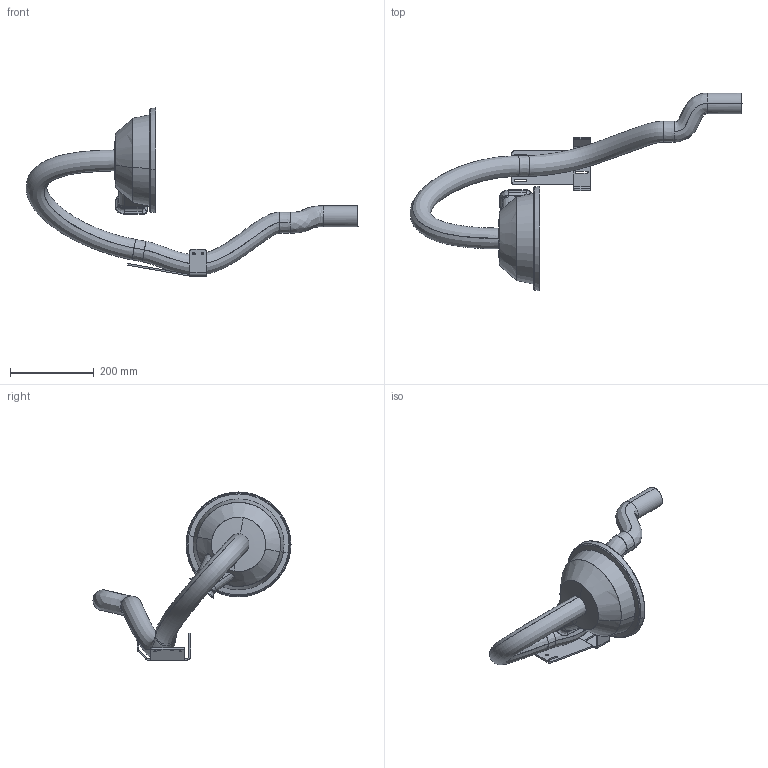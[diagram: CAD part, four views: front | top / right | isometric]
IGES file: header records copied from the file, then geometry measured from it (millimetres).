
Start section: SolidWorks IGES file using analytic representation for surfaces
Global section: file name: C:\Users\SEJAOLS6\OneDrive - ABB\Documents\SAP\7710\7710_Lightweight_models\IRB7710-LID-SW_400kg-285_OC_01_SW_J\IRB7710-LID-SW_400kg-285_OC_01_IGES_J\IRB77X0_All_OC_00_LINK03b_CABLE.igs; native system: SolidWorks 2024; preprocessor: SolidWorks 2024; author: SEJAOLS6; date: 260127.071830; units: millimetre
Bounding box: 794.92 x 474.12 x 402.62 mm (x, y, z)
Surface area: 376056.7 mm2 (no closed solid volume)
Topology: 0 solids, 0 shells, 194 faces, 2123 edges, 2122 vertices
Faces by surface type: bspline 102, revolution 92
